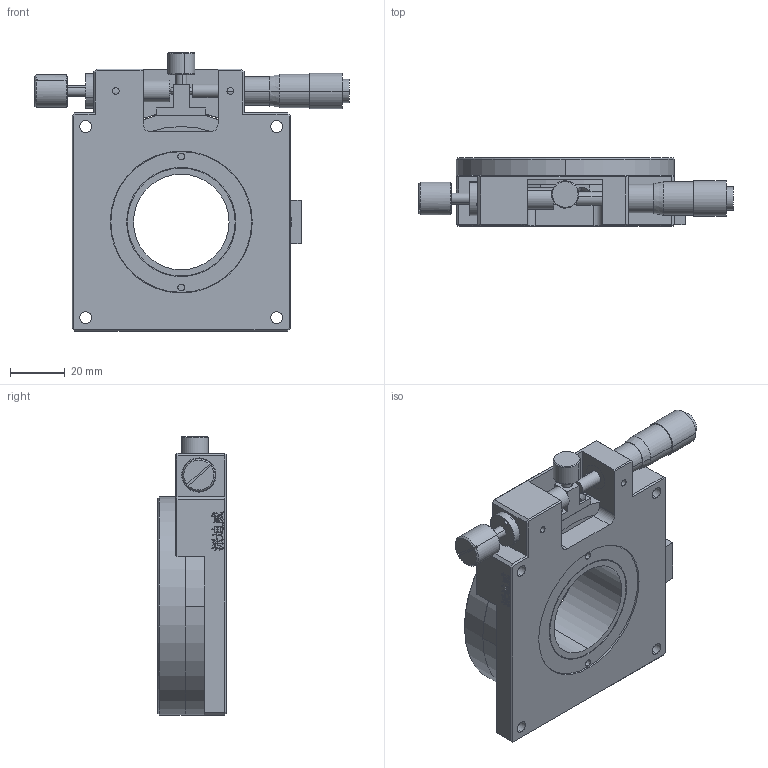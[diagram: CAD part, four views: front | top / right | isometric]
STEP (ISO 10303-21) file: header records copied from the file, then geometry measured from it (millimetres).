
FILE_DESCRIPTION (( 'STEP AP214' ), '1' );
FILE_NAME ('PT-SR80毀忒.STEP', '2023-05-07T08:12:43', ( '' ), ( '' ), 'SwSTEP 2.0', 'SolidWorks 2017', '' );
FILE_SCHEMA (( 'AUTOMOTIVE_DESIGN' ));
Length unit declared in the file: millimetre
Products named in the file (2): PT-SR80毀忒
Bounding box: 115.32 x 25 x 102 mm (x, y, z)
Volume: 113951.2 mm3; surface area: 57937.8 mm2
Topology: 14 solids, 14 shells, 517 faces, 1322 edges, 848 vertices
Faces by surface type: plane 229, cylinder 162, bspline 84, cone 42
Entity records: 25056 total; most frequent: CARTESIAN_POINT 6929, ORIENTED_EDGE 2596, DIRECTION 2348, EDGE_CURVE 1298, VERTEX_POINT 848, AXIS2_PLACEMENT_3D 805, LINE 738, VECTOR 738
